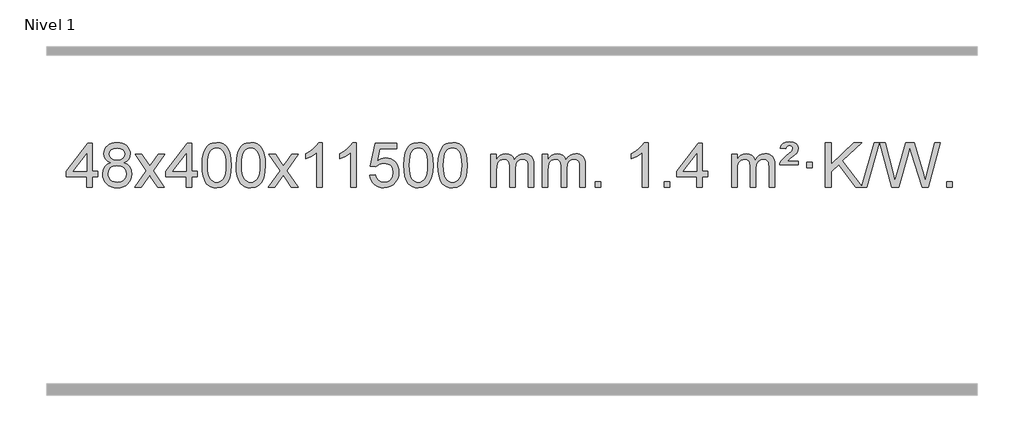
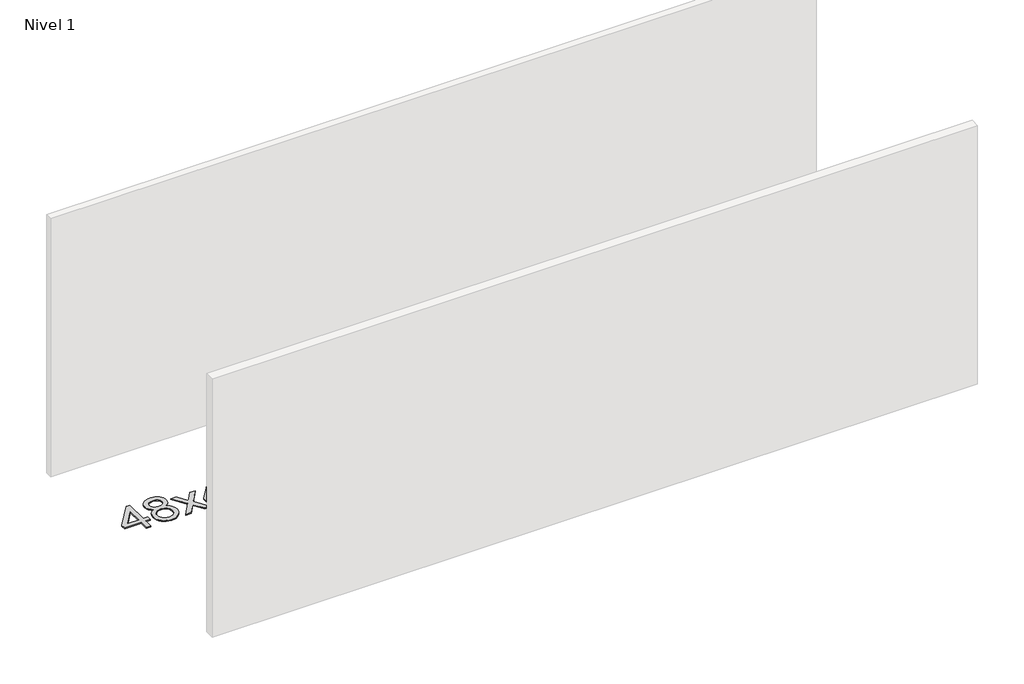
# One storey, part 3 of 10: 1 proxy.
"""IFC4 building model written with IfcOpenShell, lengths in millimetres."""

import ifcopenshell
import ifcopenshell.guid

model = None  # the IFC model being written
_history = None  # IfcOwnerHistory: only IFC2X3 demands one
_inside = {}  # id of a spatial element -> (the spatial element, [elements in it])
_under = {}  # id of a project, library or spatial element -> (it, [spatial elements below it])
_declared = {}  # id of a project -> (the project, [libraries it declares])
_typed = {}  # id of a type object -> (the type object, [elements of that type])
_made_of = {}  # id of a material, layer set ... -> (it, [elements and type objects made of it])


def new_model(schema):
    """Start an empty IFC model of exactly this schema.

    Asked for "IFC4X3", IfcOpenShell would pick the latest addendum, in which some entities
    have other attributes; the version numbers below select the first issue.
    IFC2X3 requires an IfcOwnerHistory on every rooted entity: one is made here for all.
    """
    global model, _history
    if schema == "IFC4X3":
        model = ifcopenshell.file(schema_version=(4, 3, 0, 0))
    else:
        model = ifcopenshell.file(schema=schema)
    _inside.clear()
    _under.clear()
    _declared.clear()
    _typed.clear()
    _made_of.clear()
    _history = None
    if model.schema == "IFC2X3":
        org = make("IfcOrganization", Name="unknown")
        user = make(
            "IfcPersonAndOrganization",
            ThePerson=make("IfcPerson", FamilyName="unknown"),
            TheOrganization=org,
        )
        app = make(
            "IfcApplication",
            ApplicationDeveloper=org,
            Version="unknown",
            ApplicationFullName="unknown",
            ApplicationIdentifier="unknown",
        )
        _history = make(
            "IfcOwnerHistory",
            OwningUser=user,
            OwningApplication=app,
            ChangeAction="ADDED",
            CreationDate=0,
        )
    return model


def make(cls, **values):
    """One entity of the class cls with the attributes given. An attribute that is None is left unset."""
    return model.create_entity(
        cls, **{name: value for name, value in values.items() if value is not None}
    )


def rooted(cls, **values):
    """An entity with a GlobalId (a new one), such as an element, a storey or a relation."""
    return make(cls, GlobalId=ifcopenshell.guid.new(), OwnerHistory=_history, **values)


def si_unit(unit_type, name, prefix=None):
    """IfcSIUnit, for example si_unit("LENGTHUNIT", "METRE", prefix="MILLI")."""
    return make("IfcSIUnit", UnitType=unit_type, Prefix=prefix, Name=name)


def assignment(units):
    """IfcUnitAssignment: the units of a project."""
    return None if units is None else make("IfcUnitAssignment", Units=units)


def point(xyz):
    """IfcCartesianPoint."""
    return None if xyz is None else make("IfcCartesianPoint", Coordinates=xyz)


def direction(xyz):
    """IfcDirection."""
    return None if xyz is None else make("IfcDirection", DirectionRatios=xyz)


def frame(location, z_axis=None, x_axis=None):
    """IfcAxis2Placement3D, a coordinate frame: its origin and axes. An axis left out is left unset."""
    return make(
        "IfcAxis2Placement3D",
        Location=point(location),
        Axis=direction(z_axis),
        RefDirection=direction(x_axis),
    )


def origin():
    """The frame at (0, 0, 0) with its axes left unset."""
    return frame((0.0, 0.0, 0.0))


def origin_with_axes():
    """The frame at (0, 0, 0) with the z axis (0, 0, 1) and the x axis (1, 0, 0) written out."""
    return frame((0.0, 0.0, 0.0), z_axis=(0.0, 0.0, 1.0), x_axis=(1.0, 0.0, 0.0))


def place(relative_to, where):
    """IfcLocalPlacement: puts the frame where relative to a parent placement (None: the world)."""
    return make(
        "IfcLocalPlacement", PlacementRelTo=relative_to, RelativePlacement=where
    )


def context(
    kind, dimensions, precision=None, world=None, true_north=None, identifier=None
):
    """IfcGeometricRepresentationContext, for example the 3D "Model" context."""
    return make(
        "IfcGeometricRepresentationContext",
        ContextIdentifier=identifier,
        ContextType=kind,
        CoordinateSpaceDimension=dimensions,
        Precision=precision,
        WorldCoordinateSystem=world,
        TrueNorth=true_north,
    )


def project(units=None, contexts=None):
    """IfcProject with its units and contexts."""
    return rooted(
        "IfcProject",
        Name="project",
        RepresentationContexts=contexts,
        UnitsInContext=assignment(units),
    )


def spatial(cls, under=None, at=None, **own):
    """A site, building, storey or space (cls), placed at a placement, below another one or the project."""
    s = rooted(cls, ObjectPlacement=at, **own)
    if under is not None:
        _under.setdefault(under.id(), (under, []))[1].append(s)
    return s


def polyline(points):
    """IfcPolyline through the points."""
    return make("IfcPolyline", Points=[point(p) for p in points])


def outline(outer, holes=None, kind="AREA"):
    """IfcArbitraryClosedProfileDef: a profile drawn as a closed curve; with holes, ...WithVoids."""
    if holes is None:
        return make("IfcArbitraryClosedProfileDef", ProfileType=kind, OuterCurve=outer)
    return make(
        "IfcArbitraryProfileDefWithVoids",
        ProfileType=kind,
        OuterCurve=outer,
        InnerCurves=holes,
    )


def extrude(swept, where, along, depth):
    """IfcExtrudedAreaSolid: the profile swept, set in the frame where, extruded along a direction by depth."""
    return make(
        "IfcExtrudedAreaSolid",
        SweptArea=swept,
        Position=where,
        ExtrudedDirection=direction(along),
        Depth=depth,
    )


def shape(context_of_items, identifier, shape_type, items):
    """IfcShapeRepresentation: the items that make up one representation, for example the "Body"."""
    return make(
        "IfcShapeRepresentation",
        ContextOfItems=context_of_items,
        RepresentationIdentifier=identifier,
        RepresentationType=shape_type,
        Items=items,
    )


def made_of(thing, what):
    """Note that an element or type object is made of a material, layer set ...; save() writes the relation."""
    if what is not None:
        _made_of.setdefault(what.id(), (what, []))[1].append(thing)
    return thing


def element(
    cls,
    number,
    at=None,
    inside=None,
    cuts=None,
    type_object=None,
    material=None,
    context=None,
    identifier="Body",
    shape_type=None,
    held_by="IfcProductDefinitionShape",
    body=None,
    shapes=None,
    **own,
):
    """One element of the class cls, such as IfcWall. Its Tag is "e" and its number.

    at: its placement. inside: the storey or other place that contains it. cuts: it is an
    opening in that element (IfcRelVoidsElement). A single representation is given by context,
    identifier, shape_type and body (its items); several are given by shapes. held_by: the class
    of the entity that holds the representations. save() writes the other relations.
    """
    e = rooted(cls, Tag="e%d" % number, ObjectPlacement=at, **own)
    if body is not None:
        shapes = [shape(context, identifier, shape_type, body)]
    if shapes is not None:
        e.Representation = make(held_by, Representations=shapes)
    if inside is not None:
        _inside.setdefault(inside.id(), (inside, []))[1].append(e)
    if cuts is not None:
        rooted(
            "IfcRelVoidsElement", RelatingBuildingElement=cuts, RelatedOpeningElement=e
        )
    if type_object is not None:
        _typed.setdefault(type_object.id(), (type_object, []))[1].append(e)
    return made_of(e, material)


def aggregate(whole, parts):
    """IfcRelAggregates: a whole, such as a stair, and the parts it consists of."""
    return rooted("IfcRelAggregates", RelatingObject=whole, RelatedObjects=parts)


def save(model, path):
    """Write the relations noted so far, then the file.

    IfcRelAggregates (storeys below a building ...), IfcRelContainedInSpatialStructure (elements
    in a storey), IfcRelDefinesByType, IfcRelAssociatesMaterial and IfcRelDeclares: one each for
    every whole, place, type object, material and project.
    """
    for whole, parts in _under.values():
        aggregate(whole, parts)
    for where, things in _inside.values():
        rooted(
            "IfcRelContainedInSpatialStructure",
            RelatedElements=things,
            RelatingStructure=where,
        )
    for kind, things in _typed.values():
        rooted("IfcRelDefinesByType", RelatedObjects=things, RelatingType=kind)
    for what, things in _made_of.values():
        rooted("IfcRelAssociatesMaterial", RelatedObjects=things, RelatingMaterial=what)
    for by, libraries in _declared.values():
        rooted("IfcRelDeclares", RelatingContext=by, RelatedDefinitions=libraries)
    model.write(path)


model = new_model("IFC4")

# Units and contexts
model_context = context("Model", 3, world=origin())
ifc_project = project(units=[si_unit("LENGTHUNIT", "METRE", prefix="MILLI")], contexts=[model_context])

# Site, building, storey
site = spatial("IfcSite", under=ifc_project)
building = spatial("IfcBuilding", under=site)
storey = spatial("IfcBuildingStorey", under=building, Name="Nivel 1", Elevation=0.0)

# Proxy
placement = place(None, origin())
element("IfcBuildingElementProxy", 1, Name="Texto de modelo 1", ObjectType="Texto de modelo 1", at=placement, inside=storey, context=model_context, shape_type="SweptSolid", body=[
    extrude(outline(polyline([(-25216.7326019, 11534.4953548), (-25216.7326019, 11628.6731455), (-25398.809664, 11628.6731455), (-25398.809664, 11678.9013006), (-25204.1755631, 11930.042076), (-25166.5044468, 11930.042076), (-25166.5044468, 11678.9013006), (-25116.2762917, 11678.9013006), (-25116.2762917, 11628.6731455), (-25166.5044468, 11628.6731455), (-25166.5044468, 11534.4953548), (-25216.7326019, 11534.4953548)]), holes=[polyline([(-25216.7326019, 11678.9013006), (-25216.7326019, 11834.0984516), (-25337.0054888, 11678.9013006), (-25216.7326019, 11678.9013006)])]), origin_with_axes(), (0.0, 0.0, 1.0), 10.0),
    extrude(outline(polyline([(-24999.1426644, 11755.8131631), (-25026.0348383, 11769.0569149), (-25044.9071846, 11787.0095563), (-25056.0540091, 11809.3032052), (-25059.7696172, 11835.5699796), (-25057.7462663, 11856.0548754), (-25051.6762134, 11874.8352512), (-25041.5594585, 11891.9111072), (-25027.3960017, 11907.2824432), (-25009.8664246, 11919.9866348), (-24989.651309, 11929.0610573), (-24966.7506548, 11934.5057109), (-24941.164462, 11936.3205954), (-24915.4556419, 11934.4627913), (-24892.3833094, 11928.8893791), (-24871.9474646, 11919.6003587), (-24854.1481074, 11906.5957302), (-24839.7271332, 11890.9239572), (-24829.4264373, 11873.6335034), (-24823.2460198, 11854.7243688), (-24821.1858806, 11834.1965535), (-24824.8524379, 11808.7759076), (-24835.8521095, 11786.8624035), (-24854.3075229, 11769.0201267), (-24880.3413055, 11755.8131631), (-24849.4269551, 11739.8838727), (-24826.9248398, 11716.4252641), (-24813.2028413, 11686.5655088), (-24808.6288419, 11651.4327783), (-24810.8974475, 11626.3800144), (-24817.7032644, 11603.4119152), (-24829.0462926, 11582.5284806), (-24844.9265321, 11563.7297106), (-24864.5101169, 11548.1928277), (-24886.9631814, 11537.0950542), (-24912.2857254, 11530.4363901), (-24940.4777489, 11528.2168354), (-24968.6697725, 11530.4455871), (-24993.9923165, 11537.1318424), (-25016.4453809, 11548.2756012), (-25036.0289658, 11563.8768634), (-25051.9092053, 11582.8074578), (-25063.2522335, 11603.9392127), (-25070.0580504, 11627.2721283), (-25072.326656, 11652.8062044), (-25067.5687155, 11689.3000983), (-25053.2948941, 11719.3192691), (-25030.2409558, 11741.8336472), (-24999.1426644, 11755.8131631)]), holes=[polyline([(-25009.5414622, 11834.0984516), (-25005.09009, 11812.1726847), (-24991.7359736, 11794.6615018), (-24969.8715204, 11783.1835835), (-24939.8891378, 11779.3576108), (-24910.6057309, 11783.159058), (-24889.0723715, 11794.5633999), (-24875.8286197, 11811.4859717), (-24871.4140357, 11831.8421087), (-24875.9757725, 11852.970798), (-24889.6609827, 11870.4451928), (-24911.4886477, 11882.1806284), (-24940.4777489, 11886.0924403), (-24969.6507912, 11882.2664675), (-24991.441668, 11870.7885493), (-25005.0165136, 11853.9640794), (-25009.5414622, 11834.0984516)]), polyline([(-25022.0985009, 11654.572038), (-25020.0015736, 11635.3563351), (-25013.7107915, 11616.7537689), (-25002.0979831, 11600.5301729), (-24984.0349772, 11588.4513807), (-24962.4035159, 11580.946588), (-24940.0853415, 11578.4449905), (-24905.8968414, 11583.705703), (-24892.0031647, 11590.2815936), (-24880.2432036, 11599.4878406), (-24864.2035486, 11623.3879075), (-24858.8569969, 11653.0024081), (-24864.3752269, 11683.1196808), (-24880.9299167, 11707.5470453), (-24893.0087088, 11716.9893498), (-24907.1721656, 11723.7338531), (-24941.7530732, 11729.1294557), (-24975.4633267, 11723.8074295), (-24989.2006535, 11717.1548967), (-25000.8594471, 11707.8413509), (-25016.7887375, 11683.8799703), (-25022.0985009, 11654.572038)])]), origin_with_axes(), (0.0, 0.0, 1.0), 10.0),
    extrude(outline(polyline([(-24783.5147643, 11534.4953548), (-24676.1913236, 11682.8253752), (-24777.236245, 11829.5857658), (-24716.8054959, 11829.5857658), (-24668.0488688, 11758.9524228), (-24645.289236, 11725.5977885), (-24625.5707611, 11752.8701071), (-24570.0451053, 11829.5857658), (-24509.6143562, 11829.5857658), (-24615.7605745, 11682.8253752), (-24513.5384308, 11534.4953548), (-24573.9691799, 11534.4953548), (-24635.4790495, 11623.6699504), (-24646.760764, 11639.95486), (-24723.0840153, 11534.4953548), (-24783.5147643, 11534.4953548)])), origin_with_axes(), (0.0, 0.0, 1.0), 10.0),
    extrude(outline(polyline([(-24318.9043299, 11534.4953548), (-24318.9043299, 11628.6731455), (-24500.981392, 11628.6731455), (-24500.981392, 11678.9013006), (-24306.3472911, 11930.042076), (-24268.6761748, 11930.042076), (-24268.6761748, 11678.9013006), (-24218.4480197, 11678.9013006), (-24218.4480197, 11628.6731455), (-24268.6761748, 11628.6731455), (-24268.6761748, 11534.4953548), (-24318.9043299, 11534.4953548)]), holes=[polyline([(-24318.9043299, 11678.9013006), (-24318.9043299, 11834.0984516), (-24439.1772168, 11678.9013006), (-24318.9043299, 11678.9013006)])]), origin_with_axes(), (0.0, 0.0, 1.0), 10.0),
    extrude(outline(polyline([(-24174.4983841, 11732.1706135), (-24170.8073014, 11796.488649), (-24159.7340533, 11847.7836619), (-24141.3890045, 11886.840467), (-24129.5309415, 11902.0738473), (-24115.8825195, 11914.4438794), (-24100.3977532, 11924.0149426), (-24083.0306573, 11930.8514164), (-24042.649477, 11936.3205954), (-24011.6983385, 11933.0832338), (-23983.9845615, 11923.3711491), (-23960.8079958, 11907.5644861), (-23943.4684911, 11886.0433894), (-23930.3718921, 11858.9918), (-23919.9240434, 11826.5936589), (-23913.0814383, 11785.4521891), (-23910.8005699, 11732.1706135), (-23914.4548644, 11668.22046), (-23925.4177479, 11617.0480745), (-23943.6524321, 11577.9544811), (-23955.4829039, 11562.6751156), (-23969.1221289, 11550.2407042), (-23984.6252893, 11540.6052616), (-24002.0475674, 11533.7228026), (-24042.649477, 11528.2168354), (-24070.314203, 11530.6080683), (-24094.8396694, 11537.7817673), (-24116.225876, 11549.7379321), (-24134.472823, 11566.4765629), (-24151.9840059, 11596.734857), (-24164.4919938, 11634.4366301), (-24171.9967865, 11679.5818823), (-24174.4983841, 11732.1706135)]), holes=[polyline([(-24124.270229, 11732.2687154), (-24122.798701, 11688.6041882), (-24118.3841171, 11653.2599255), (-24111.0264772, 11626.2359273), (-24100.7257813, 11607.5321935), (-24088.2668444, 11594.8065422), (-24074.4344814, 11585.7167912), (-24059.2286922, 11580.2629406), (-24042.649477, 11578.4449905), (-24026.0702617, 11580.269072), (-24010.8644726, 11585.7413167), (-23997.0321096, 11594.8617245), (-23984.5731727, 11607.6302954), (-23974.2724768, 11626.364686), (-23966.9148369, 11653.3825529), (-23962.500253, 11688.683896), (-23961.028725, 11732.2687154), (-23962.451202, 11774.7774799), (-23966.7186332, 11809.4994089), (-23973.8310184, 11836.4345023), (-23983.7883578, 11855.5827602), (-23996.0388282, 11868.9307452), (-24010.0306067, 11878.4650203), (-24025.7636934, 11884.1855853), (-24043.2380882, 11886.0924403), (-24059.7314643, 11884.4124458), (-24074.679736, 11879.3724625), (-24088.0829034, 11870.9724903), (-24099.9409664, 11859.2125292), (-24110.5850188, 11838.3658828), (-24118.1879133, 11810.2596983), (-24122.7496501, 11774.8939759), (-24124.270229, 11732.2687154)])]), origin_with_axes(), (0.0, 0.0, 1.0), 10.0),
    extrude(outline(polyline([(-23866.8509342, 11732.1706135), (-23863.1598515, 11796.488649), (-23852.0866035, 11847.7836619), (-23833.7415547, 11886.840467), (-23821.8834917, 11902.0738473), (-23808.2350697, 11914.4438794), (-23792.7503033, 11924.0149426), (-23775.3832075, 11930.8514164), (-23735.0020271, 11936.3205954), (-23704.0508886, 11933.0832338), (-23676.3371117, 11923.3711491), (-23653.160546, 11907.5644861), (-23635.8210412, 11886.0433894), (-23622.7244422, 11858.9918), (-23612.2765936, 11826.5936589), (-23605.4339884, 11785.4521891), (-23603.1531201, 11732.1706135), (-23606.8074146, 11668.22046), (-23617.770298, 11617.0480745), (-23636.0049822, 11577.9544811), (-23647.8354541, 11562.6751156), (-23661.474679, 11550.2407042), (-23676.9778395, 11540.6052616), (-23694.4001176, 11533.7228026), (-23735.0020271, 11528.2168354), (-23762.6667532, 11530.6080683), (-23787.1922195, 11537.7817673), (-23808.5784262, 11549.7379321), (-23826.8253731, 11566.4765629), (-23844.3365561, 11596.734857), (-23856.844544, 11634.4366301), (-23864.3493367, 11679.5818823), (-23866.8509342, 11732.1706135)]), holes=[polyline([(-23816.6227791, 11732.2687154), (-23815.1512512, 11688.6041882), (-23810.7366672, 11653.2599255), (-23803.3790273, 11626.2359273), (-23793.0783315, 11607.5321935), (-23780.6193946, 11594.8065422), (-23766.7870315, 11585.7167912), (-23751.5812424, 11580.2629406), (-23735.0020271, 11578.4449905), (-23718.4228119, 11580.269072), (-23703.2170228, 11585.7413167), (-23689.3846597, 11594.8617245), (-23676.9257228, 11607.6302954), (-23666.625027, 11626.364686), (-23659.2673871, 11653.3825529), (-23654.8528031, 11688.683896), (-23653.3812752, 11732.2687154), (-23654.8037522, 11774.7774799), (-23659.0711833, 11809.4994089), (-23666.1835686, 11836.4345023), (-23676.1409079, 11855.5827602), (-23688.3913784, 11868.9307452), (-23702.3831569, 11878.4650203), (-23718.1162436, 11884.1855853), (-23735.5906383, 11886.0924403), (-23752.0840145, 11884.4124458), (-23767.0322862, 11879.3724625), (-23780.4354536, 11870.9724903), (-23792.2935165, 11859.2125292), (-23802.9375689, 11838.3658828), (-23810.5404635, 11810.2596983), (-23815.1022002, 11774.8939759), (-23816.6227791, 11732.2687154)])]), origin_with_axes(), (0.0, 0.0, 1.0), 10.0),
    extrude(outline(polyline([(-23578.0390425, 11534.4953548), (-23470.7156018, 11682.8253752), (-23571.7605232, 11829.5857658), (-23511.3297741, 11829.5857658), (-23462.573147, 11758.9524228), (-23439.8135142, 11725.5977885), (-23420.0950393, 11752.8701071), (-23364.5693835, 11829.5857658), (-23304.1386344, 11829.5857658), (-23410.2848527, 11682.8253752), (-23308.062709, 11534.4953548), (-23368.4934581, 11534.4953548), (-23430.0033277, 11623.6699504), (-23441.2850422, 11639.95486), (-23517.6082935, 11534.4953548), (-23578.0390425, 11534.4953548)])), origin_with_axes(), (0.0, 0.0, 1.0), 10.0),
    extrude(outline(polyline([(-23088.3145306, 11534.4953548), (-23138.5426856, 11534.4953548), (-23138.5426856, 11847.6365091), (-23159.5119594, 11830.6771491), (-23186.1220903, 11813.7423146), (-23238.9989958, 11788.3829824), (-23238.9989958, 11835.8642852), (-23199.5497832, 11857.3240683), (-23165.3735458, 11882.8550787), (-23138.432321, 11910.00477), (-23120.6881461, 11936.3205954), (-23088.3145306, 11936.3205954), (-23088.3145306, 11534.4953548)])), origin_with_axes(), (0.0, 0.0, 1.0), 10.0),
    extrude(outline(polyline([(-22780.6670807, 11534.4953548), (-22830.8952358, 11534.4953548), (-22830.8952358, 11847.6365091), (-22851.8645095, 11830.6771491), (-22878.4746405, 11813.7423146), (-22931.351546, 11788.3829824), (-22931.351546, 11835.8642852), (-22891.9023333, 11857.3240683), (-22857.726096, 11882.8550787), (-22830.7848712, 11910.00477), (-22813.0406963, 11936.3205954), (-22780.6670807, 11936.3205954), (-22780.6670807, 11534.4953548)])), origin_with_axes(), (0.0, 0.0, 1.0), 10.0),
    extrude(outline(polyline([(-22661.3752124, 11641.2301843), (-22611.1470573, 11647.5087037), (-22601.925482, 11617.3546428), (-22585.8367761, 11595.7599697), (-22562.954516, 11582.7737353), (-22533.3522781, 11578.4449905), (-22514.2224144, 11579.9502409), (-22497.3488935, 11584.4659924), (-22482.7317156, 11591.9922449), (-22470.3708805, 11602.5289984), (-22460.5422999, 11615.5550867), (-22453.5218851, 11630.5493437), (-22447.9055534, 11666.4423637), (-22453.1662659, 11700.2384563), (-22459.7421566, 11714.1566585), (-22468.9484035, 11726.0882979), (-22480.8156635, 11735.6593611), (-22495.3745935, 11742.4958348), (-22532.5674632, 11747.9650138), (-22556.933514, 11745.7822473), (-22576.6642517, 11739.2339478), (-22592.4218638, 11729.2030321), (-22604.868538, 11716.5724169), (-22655.096693, 11722.8509363), (-22611.1470573, 11930.042076), (-22416.5129564, 11930.042076), (-22416.5129564, 11879.8139209), (-22570.5328851, 11879.8139209), (-22592.0171936, 11769.1550168), (-22574.2914128, 11781.8592083), (-22556.1364363, 11790.9336309), (-22537.5522642, 11796.3782844), (-22518.5388964, 11798.1931689), (-22494.0778094, 11795.9429574), (-22471.6094166, 11789.1923228), (-22451.1337179, 11777.9412651), (-22432.6507133, 11762.1897843), (-22417.349888, 11742.900505), (-22406.420727, 11721.0360518), (-22399.8632305, 11696.5964246), (-22397.6773983, 11669.5816234), (-22399.645567, 11643.5601036), (-22405.550073, 11619.3534683), (-22415.3909163, 11596.9617175), (-22429.1680971, 11576.3848513), (-22450.0392689, 11555.3113443), (-22474.393057, 11540.2588394), (-22502.2294613, 11531.2273364), (-22533.5484818, 11528.2168354), (-22559.4688341, 11530.1512815), (-22582.8814574, 11535.95462), (-22603.7863518, 11545.6268508), (-22622.1835172, 11559.1679739), (-22637.4904739, 11575.903539), (-22649.124742, 11595.1590958), (-22657.0863215, 11616.9346442), (-22661.3752124, 11641.2301843)])), origin_with_axes(), (0.0, 0.0, 1.0), 10.0),
    extrude(outline(polyline([(-22353.7277626, 11732.1706135), (-22350.0366799, 11796.488649), (-22338.9634319, 11847.7836619), (-22320.618383, 11886.840467), (-22308.76032, 11902.0738473), (-22295.111898, 11914.4438794), (-22279.6271317, 11924.0149426), (-22262.2600359, 11930.8514164), (-22221.8788555, 11936.3205954), (-22190.927717, 11933.0832338), (-22163.21394, 11923.3711491), (-22140.0373743, 11907.5644861), (-22122.6978696, 11886.0433894), (-22109.6012706, 11858.9918), (-22099.1534219, 11826.5936589), (-22092.3108168, 11785.4521891), (-22090.0299484, 11732.1706135), (-22093.6842429, 11668.22046), (-22104.6471264, 11617.0480745), (-22122.8818106, 11577.9544811), (-22134.7122824, 11562.6751156), (-22148.3515074, 11550.2407042), (-22163.8546678, 11540.6052616), (-22181.276946, 11533.7228026), (-22221.8788555, 11528.2168354), (-22249.5435816, 11530.6080683), (-22274.0690479, 11537.7817673), (-22295.4552546, 11549.7379321), (-22313.7022015, 11566.4765629), (-22331.2133845, 11596.734857), (-22343.7213723, 11634.4366301), (-22351.226165, 11679.5818823), (-22353.7277626, 11732.1706135)]), holes=[polyline([(-22303.4996075, 11732.2687154), (-22302.0280795, 11688.6041882), (-22297.6134956, 11653.2599255), (-22290.2558557, 11626.2359273), (-22279.9551598, 11607.5321935), (-22267.4962229, 11594.8065422), (-22253.6638599, 11585.7167912), (-22238.4580708, 11580.2629406), (-22221.8788555, 11578.4449905), (-22205.2996403, 11580.269072), (-22190.0938511, 11585.7413167), (-22176.2614881, 11594.8617245), (-22163.8025512, 11607.6302954), (-22153.5018553, 11626.364686), (-22146.1442154, 11653.3825529), (-22141.7296315, 11688.683896), (-22140.2581035, 11732.2687154), (-22141.6805806, 11774.7774799), (-22145.9480117, 11809.4994089), (-22153.060397, 11836.4345023), (-22163.0177363, 11855.5827602), (-22175.2682067, 11868.9307452), (-22189.2599853, 11878.4650203), (-22204.9930719, 11884.1855853), (-22222.4674667, 11886.0924403), (-22238.9608428, 11884.4124458), (-22253.9091146, 11879.3724625), (-22267.3122819, 11870.9724903), (-22279.1703449, 11859.2125292), (-22289.8143973, 11838.3658828), (-22297.4172919, 11810.2596983), (-22301.9790286, 11774.8939759), (-22303.4996075, 11732.2687154)])]), origin_with_axes(), (0.0, 0.0, 1.0), 10.0),
    extrude(outline(polyline([(-22046.0803128, 11732.1706135), (-22042.3892301, 11796.488649), (-22031.315982, 11847.7836619), (-22012.9709332, 11886.840467), (-22001.1128702, 11902.0738473), (-21987.4644482, 11914.4438794), (-21971.9796819, 11924.0149426), (-21954.612586, 11930.8514164), (-21914.2314057, 11936.3205954), (-21883.2802672, 11933.0832338), (-21855.5664902, 11923.3711491), (-21832.3899245, 11907.5644861), (-21815.0504198, 11886.0433894), (-21801.9538208, 11858.9918), (-21791.5059721, 11826.5936589), (-21784.663367, 11785.4521891), (-21782.3824986, 11732.1706135), (-21786.0367931, 11668.22046), (-21796.9996766, 11617.0480745), (-21815.2343608, 11577.9544811), (-21827.0648326, 11562.6751156), (-21840.7040576, 11550.2407042), (-21856.207218, 11540.6052616), (-21873.6294962, 11533.7228026), (-21914.2314057, 11528.2168354), (-21941.8961317, 11530.6080683), (-21966.4215981, 11537.7817673), (-21987.8078047, 11549.7379321), (-22006.0547517, 11566.4765629), (-22023.5659347, 11596.734857), (-22036.0739225, 11634.4366301), (-22043.5787152, 11679.5818823), (-22046.0803128, 11732.1706135)]), holes=[polyline([(-21995.8521577, 11732.2687154), (-21994.3806297, 11688.6041882), (-21989.9660458, 11653.2599255), (-21982.6084059, 11626.2359273), (-21972.30771, 11607.5321935), (-21959.8487731, 11594.8065422), (-21946.0164101, 11585.7167912), (-21930.8106209, 11580.2629406), (-21914.2314057, 11578.4449905), (-21897.6521904, 11580.269072), (-21882.4464013, 11585.7413167), (-21868.6140383, 11594.8617245), (-21856.1551014, 11607.6302954), (-21845.8544055, 11626.364686), (-21838.4967656, 11653.3825529), (-21834.0821817, 11688.683896), (-21832.6106537, 11732.2687154), (-21834.0331307, 11774.7774799), (-21838.3005619, 11809.4994089), (-21845.4129471, 11836.4345023), (-21855.3702865, 11855.5827602), (-21867.6207569, 11868.9307452), (-21881.6125354, 11878.4650203), (-21897.3456221, 11884.1855853), (-21914.8200169, 11886.0924403), (-21931.313393, 11884.4124458), (-21946.2616647, 11879.3724625), (-21959.6648321, 11870.9724903), (-21971.5228951, 11859.2125292), (-21982.1669475, 11838.3658828), (-21989.769842, 11810.2596983), (-21994.3315788, 11774.8939759), (-21995.8521577, 11732.2687154)])]), origin_with_axes(), (0.0, 0.0, 1.0), 10.0),
    extrude(outline(polyline([(-21568.9128395, 11534.4953548), (-21568.9128395, 11829.5857658), (-21518.6846845, 11829.5857658), (-21518.6846845, 11781.0253425), (-21503.5769972, 11803.3312541), (-21484.1528279, 11820.8056489), (-21461.074364, 11832.0996261), (-21435.0037933, 11835.8642852), (-21407.0692871, 11832.0260497), (-21384.6775364, 11820.5113433), (-21367.9511683, 11802.0804553), (-21357.0128103, 11777.4936753), (-21338.7045497, 11803.0308171), (-21317.8211151, 11821.2716327), (-21294.3625065, 11832.2161221), (-21268.328724, 11835.8642852), (-21248.2209073, 11834.346772), (-21230.5717686, 11829.7942323), (-21215.3813079, 11822.2066661), (-21202.6495251, 11811.5840735), (-21192.5848869, 11797.8038271), (-21185.3958596, 11780.7432996), (-21181.0824432, 11760.402491), (-21179.6446377, 11736.7814012), (-21179.6446377, 11534.4953548), (-21229.8727928, 11534.4953548), (-21229.8727928, 11715.1989908), (-21231.0377524, 11740.2517547), (-21234.5326314, 11757.1375382), (-21241.0809309, 11768.7012956), (-21251.4061522, 11777.7879809), (-21264.6866923, 11783.6740928), (-21280.1009479, 11785.6361301), (-21307.3119528, 11780.6084095), (-21329.4952371, 11765.5252477), (-21338.1006101, 11753.955359), (-21344.2473051, 11739.3565751), (-21349.1646611, 11701.0723222), (-21349.1646611, 11534.4953548), (-21399.3928162, 11534.4953548), (-21399.3928162, 11720.7907971), (-21402.2990839, 11749.1912871), (-21411.0178872, 11769.4493223), (-21426.3585664, 11781.5894282), (-21449.1304619, 11785.6361301), (-21468.4810549, 11782.9383288), (-21486.3110689, 11774.8449249), (-21501.0263487, 11761.5521222), (-21511.032739, 11743.2561243), (-21516.7716981, 11717.8722666), (-21518.6846845, 11683.3158845), (-21518.6846845, 11534.4953548), (-21568.9128395, 11534.4953548)])), origin_with_axes(), (0.0, 0.0, 1.0), 10.0),
    extrude(outline(polyline([(-21104.3024051, 11534.4953548), (-21104.3024051, 11829.5857658), (-21054.07425, 11829.5857658), (-21054.07425, 11781.0253425), (-21038.9665628, 11803.3312541), (-21019.5423934, 11820.8056489), (-20996.4639296, 11832.0996261), (-20970.3933589, 11835.8642852), (-20942.4588527, 11832.0260497), (-20920.0671019, 11820.5113433), (-20903.3407339, 11802.0804553), (-20892.4023759, 11777.4936753), (-20874.0941153, 11803.0308171), (-20853.2106807, 11821.2716327), (-20829.7520721, 11832.2161221), (-20803.7182896, 11835.8642852), (-20783.6104729, 11834.346772), (-20765.9613341, 11829.7942323), (-20750.7708734, 11822.2066661), (-20738.0390907, 11811.5840735), (-20727.9744525, 11797.8038271), (-20720.7854251, 11780.7432996), (-20716.4720087, 11760.402491), (-20715.0342033, 11736.7814012), (-20715.0342033, 11534.4953548), (-20765.2623584, 11534.4953548), (-20765.2623584, 11715.1989908), (-20766.427318, 11740.2517547), (-20769.922197, 11757.1375382), (-20776.4704965, 11768.7012956), (-20786.7957178, 11777.7879809), (-20800.0762578, 11783.6740928), (-20815.4905134, 11785.6361301), (-20842.7015183, 11780.6084095), (-20864.8848026, 11765.5252477), (-20873.4901756, 11753.955359), (-20879.6368707, 11739.3565751), (-20884.5542267, 11701.0723222), (-20884.5542267, 11534.4953548), (-20934.7823817, 11534.4953548), (-20934.7823817, 11720.7907971), (-20937.6886495, 11749.1912871), (-20946.4074528, 11769.4493223), (-20961.748132, 11781.5894282), (-20984.5200275, 11785.6361301), (-21003.8706204, 11782.9383288), (-21021.7006345, 11774.8449249), (-21036.4159143, 11761.5521222), (-21046.4223045, 11743.2561243), (-21052.1612637, 11717.8722666), (-21054.07425, 11683.3158845), (-21054.07425, 11534.4953548), (-21104.3024051, 11534.4953548)])), origin_with_axes(), (0.0, 0.0, 1.0), 10.0),
    extrude(outline(polyline([(-20627.1349319, 11534.4953548), (-20627.1349319, 11584.7235098), (-20576.9067768, 11584.7235098), (-20576.9067768, 11534.4953548), (-20627.1349319, 11534.4953548)])), origin_with_axes(), (0.0, 0.0, 1.0), 10.0),
    extrude(outline(polyline([(-20149.9674587, 11534.4953548), (-20200.1956138, 11534.4953548), (-20200.1956138, 11847.6365091), (-20221.1648875, 11830.6771491), (-20247.7750185, 11813.7423146), (-20300.6519239, 11788.3829824), (-20300.6519239, 11835.8642852), (-20261.2027113, 11857.3240683), (-20227.0264739, 11882.8550787), (-20200.0852492, 11910.00477), (-20182.3410743, 11936.3205954), (-20149.9674587, 11936.3205954), (-20149.9674587, 11534.4953548)])), origin_with_axes(), (0.0, 0.0, 1.0), 10.0),
    extrude(outline(polyline([(-20005.5615128, 11534.4953548), (-20005.5615128, 11584.7235098), (-19955.3333578, 11584.7235098), (-19955.3333578, 11534.4953548), (-20005.5615128, 11534.4953548)])), origin_with_axes(), (0.0, 0.0, 1.0), 10.0),
    extrude(outline(polyline([(-19710.4711018, 11534.4953548), (-19710.4711018, 11628.6731455), (-19892.5481639, 11628.6731455), (-19892.5481639, 11678.9013006), (-19697.914063, 11930.042076), (-19660.2429467, 11930.042076), (-19660.2429467, 11678.9013006), (-19610.0147916, 11678.9013006), (-19610.0147916, 11628.6731455), (-19660.2429467, 11628.6731455), (-19660.2429467, 11534.4953548), (-19710.4711018, 11534.4953548)]), holes=[polyline([(-19710.4711018, 11678.9013006), (-19710.4711018, 11834.0984516), (-19830.7439887, 11678.9013006), (-19710.4711018, 11678.9013006)])]), origin_with_axes(), (0.0, 0.0, 1.0), 10.0),
    extrude(outline(polyline([(-19396.5451326, 11534.4953548), (-19396.5451326, 11829.5857658), (-19346.3169775, 11829.5857658), (-19346.3169775, 11781.0253425), (-19331.2092902, 11803.3312541), (-19311.7851209, 11820.8056489), (-19288.706657, 11832.0996261), (-19262.6360863, 11835.8642852), (-19234.7015802, 11832.0260497), (-19212.3098294, 11820.5113433), (-19195.5834613, 11802.0804553), (-19184.6451033, 11777.4936753), (-19166.3368427, 11803.0308171), (-19145.4534081, 11821.2716327), (-19121.9947996, 11832.2161221), (-19095.961017, 11835.8642852), (-19075.8532003, 11834.346772), (-19058.2040616, 11829.7942323), (-19043.0136009, 11822.2066661), (-19030.2818182, 11811.5840735), (-19020.2171799, 11797.8038271), (-19013.0281526, 11780.7432996), (-19008.7147362, 11760.402491), (-19007.2769307, 11736.7814012), (-19007.2769307, 11534.4953548), (-19057.5050858, 11534.4953548), (-19057.5050858, 11715.1989908), (-19058.6700455, 11740.2517547), (-19062.1649244, 11757.1375382), (-19068.7132239, 11768.7012956), (-19079.0384453, 11777.7879809), (-19092.3189853, 11783.6740928), (-19107.7332409, 11785.6361301), (-19134.9442458, 11780.6084095), (-19157.1275301, 11765.5252477), (-19165.7329031, 11753.955359), (-19171.8795981, 11739.3565751), (-19176.7969541, 11701.0723222), (-19176.7969541, 11534.4953548), (-19227.0251092, 11534.4953548), (-19227.0251092, 11720.7907971), (-19229.9313769, 11749.1912871), (-19238.6501802, 11769.4493223), (-19253.9908594, 11781.5894282), (-19276.7627549, 11785.6361301), (-19296.1133479, 11782.9383288), (-19313.9433619, 11774.8449249), (-19328.6586417, 11761.5521222), (-19338.665032, 11743.2561243), (-19344.4039911, 11717.8722666), (-19346.3169775, 11683.3158845), (-19346.3169775, 11534.4953548), (-19396.5451326, 11534.4953548)])), origin_with_axes(), (0.0, 0.0, 1.0), 10.0),
    extrude(outline(polyline([(-18963.327295, 11735.4079751), (-18959.5013223, 11751.2269009), (-18951.1626637, 11767.0948776), (-18929.6538298, 11792.2334806), (-18897.6971471, 11819.971783), (-18853.5513077, 11857.3485937), (-18846.414397, 11868.8755629), (-18844.0354267, 11880.6968377), (-18845.9238876, 11892.7878926), (-18851.5892704, 11902.5735537), (-18860.9579985, 11909.0482768), (-18873.9564957, 11911.2065178), (-18886.3909071, 11909.587837), (-18895.2446005, 11904.7317947), (-18901.6702727, 11895.2649647), (-18906.8206206, 11879.8139209), (-18957.0487757, 11886.0924403), (-18946.2085195, 11911.3046197), (-18929.5802534, 11928.8648536), (-18905.8150765, 11939.1655495), (-18873.5640882, 11942.5991147), (-18837.7814328, 11938.4665737), (-18813.0352373, 11926.0689504), (-18798.6142631, 11907.7361643), (-18793.8072717, 11885.7981347), (-18797.9030245, 11862.8913491), (-18810.1902832, 11841.2598878), (-18830.7180985, 11821.443311), (-18867.187467, 11793.3861775), (-18892.7920538, 11766.800572), (-18793.8072717, 11766.800572), (-18793.8072717, 11735.4079751), (-18963.327295, 11735.4079751)])), origin_with_axes(), (0.0, 0.0, 1.0), 10.0),
    extrude(outline(polyline([(-18718.4650391, 11710.2938975), (-18718.4650391, 11760.5220526), (-18668.236884, 11760.5220526), (-18668.236884, 11710.2938975), (-18718.4650391, 11710.2938975)])), origin_with_axes(), (0.0, 0.0, 1.0), 10.0),
    extrude(outline(polyline([(-18277.595256, 11534.4953548), (-18431.0265735, 11737.1738086), (-18498.7168606, 11672.6227812), (-18498.7168606, 11534.4953548), (-18548.9450157, 11534.4953548), (-18548.9450157, 11936.3205954), (-18498.7168606, 11936.3205954), (-18498.7168606, 11739.6263553), (-18292.7029433, 11936.3205954), (-18222.4620077, 11936.3205954), (-18395.4155964, 11771.1170541), (-18220.7619865, 11540.5398745), (-18109.4486588, 11936.3205954), (-18064.125597, 11936.3205954), (-18177.1389459, 11534.4953548), (-18216.1834883, 11534.4953548), (-18222.4620077, 11534.4953548), (-18277.595256, 11534.4953548)])), origin_with_axes(), (0.0, 0.0, 1.0), 10.0),
    extrude(outline(polyline([(-17949.6407201, 11534.4953548), (-18059.2205037, 11936.3205954), (-18007.4227188, 11936.3205954), (-17943.85271, 11672.2303738), (-17924.2323369, 11590.7077236), (-17903.2385377, 11662.8125947), (-17823.5798231, 11936.3205954), (-17748.9243035, 11936.3205954), (-17691.0442029, 11738.0567254), (-17666.2489564, 11664.4803264), (-17647.977484, 11590.7077236), (-17628.9457221, 11669.875929), (-17564.7871022, 11936.3205954), (-17512.9893173, 11936.3205954), (-17622.6672028, 11534.4953548), (-17676.3289231, 11534.4953548), (-17772.6649549, 11844.4972494), (-17786.1049105, 11887.760172), (-17801.2125977, 11835.6680815), (-17889.0137673, 11534.4953548), (-17949.6407201, 11534.4953548)])), origin_with_axes(), (0.0, 0.0, 1.0), 10.0),
    extrude(outline(polyline([(-17456.4826428, 11534.4953548), (-17456.4826428, 11584.7235098), (-17406.2544877, 11584.7235098), (-17406.2544877, 11534.4953548), (-17456.4826428, 11534.4953548)])), origin_with_axes(), (0.0, 0.0, 1.0), 10.0),
])

save(model, "model.ifc")
